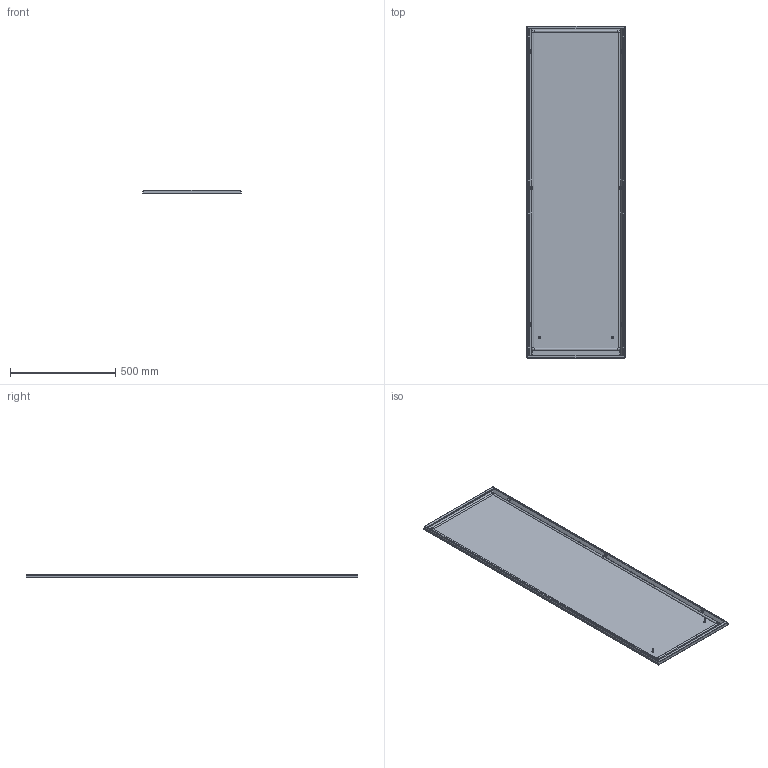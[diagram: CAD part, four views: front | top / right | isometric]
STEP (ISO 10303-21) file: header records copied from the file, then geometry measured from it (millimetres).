
FILE_DESCRIPTION (( 'STEP AP203' ), '1' );
FILE_NAME ('EUFI050160.STEP', '2015-05-04T07:42:46', ( 'Admin' ), ( '' ), 'SwSTEP 2.0', 'SolidWorks 2014', '' );
FILE_SCHEMA (( 'CONFIG_CONTROL_DESIGN' ));
Length unit declared in the file: millimetre
Products named in the file (1): EUFI050160
Bounding box: 468 x 1578 x 19 mm (x, y, z)
Volume: 1051942.7 mm3; surface area: 1826984.9 mm2
Topology: 1 solids, 1 shells, 253 faces, 668 edges, 400 vertices
Faces by surface type: plane 75, cylinder 66, cone 60, torus 40, sphere 12
Entity records: 7893 total; most frequent: DIRECTION 1462, CARTESIAN_POINT 1371, ORIENTED_EDGE 1312, EDGE_CURVE 656, AXIS2_PLACEMENT_3D 565, VERTEX_POINT 400, VECTOR 332, LINE 332
